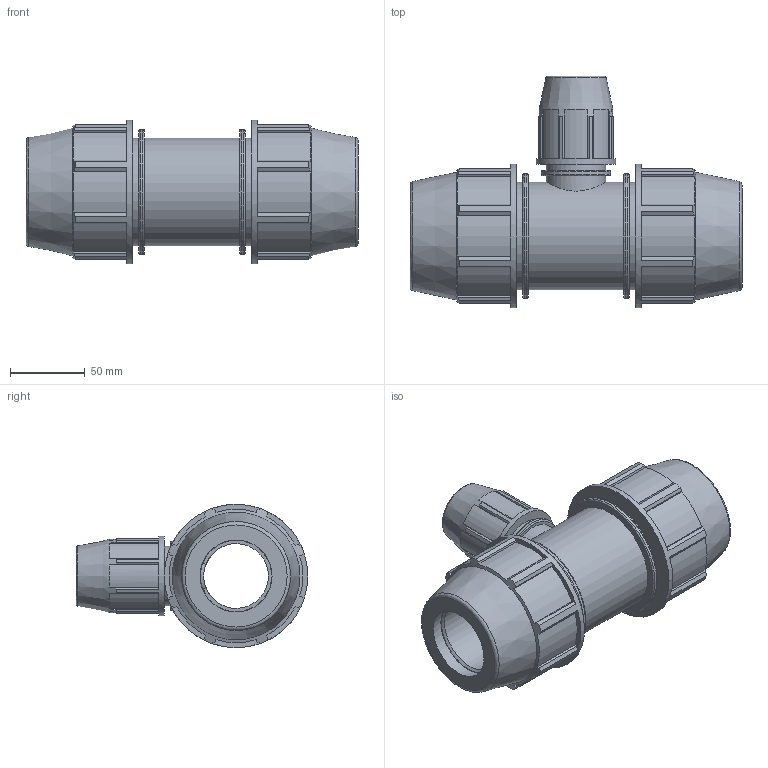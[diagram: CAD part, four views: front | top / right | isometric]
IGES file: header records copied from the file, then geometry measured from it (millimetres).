
Global section: file name: 0734M0015007.ipt; native system: Autodesk Inventor 2019; preprocessor: unknown; author: 12HКирилл; date: 20210826.124802; units: inch
Bounding box: 222 x 154.94 x 96.01 mm (x, y, z)
Volume: 843382.1 mm3; surface area: 132008 mm2
Topology: 1 solids, 1 shells, 208 faces, 597 edges, 403 vertices
Faces by surface type: plane 138, cylinder 37, revolution 20, cone 13
Full cylindrical faces by diameter (mm): 39.814 x2, 46.185 x1, 53.086 x1, 72.009 x3, 83.53 x2, 96.012 x2
